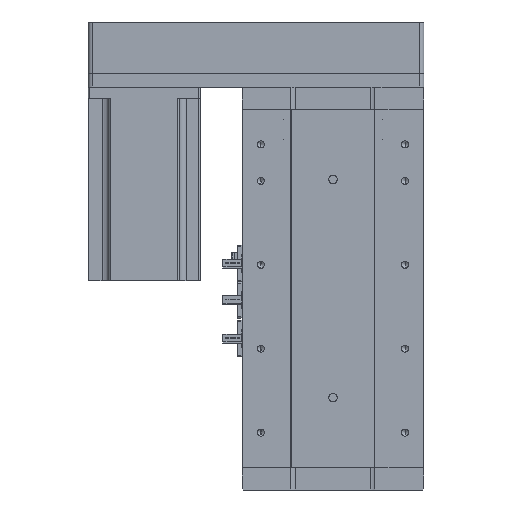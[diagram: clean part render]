
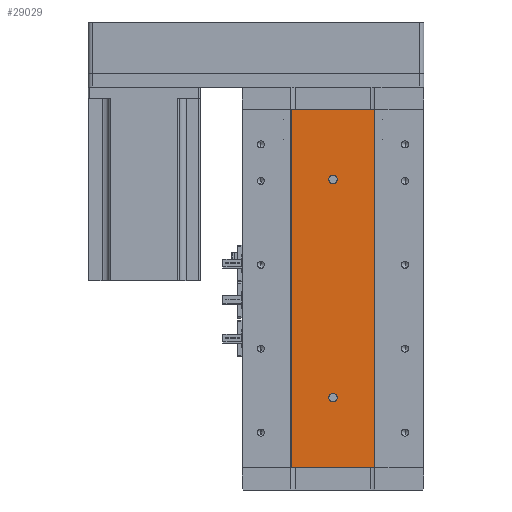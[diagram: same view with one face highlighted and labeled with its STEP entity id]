
A CAD part, left-side view. The second image highlights one B-rep face of the part: STEP entity #29029.
In plain terms, the highlighted planar face has unit normal (-1, 0, 0).
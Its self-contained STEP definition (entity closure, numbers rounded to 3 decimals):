
#848 = CIRCLE ( 'NONE', #25437, 3. ) ;
#1745 = CARTESIAN_POINT ( 'NONE',  ( -24.994, 0., 206. ) ) ;
#1935 = VERTEX_POINT ( 'NONE', #8209 ) ;
#2022 = DIRECTION ( 'NONE',  ( 1., 0., 0. ) ) ;
#2204 = EDGE_CURVE ( 'NONE', #17460, #1935, #13745, .T. ) ;
#2459 = CARTESIAN_POINT ( 'NONE',  ( -24.994, 29.785, 0. ) ) ;
#2634 = ORIENTED_EDGE ( 'NONE', *, *, #2204, .F. ) ;
#2795 = ORIENTED_EDGE ( 'NONE', *, *, #15281, .T. ) ;
#3025 = LINE ( 'NONE', #21633, #33633 ) ;
#4409 = FACE_BOUND ( 'NONE', #26926, .T. ) ;
#4567 = CARTESIAN_POINT ( 'NONE',  ( -24.994, 29.785, 256. ) ) ;
#4767 = DIRECTION ( 'NONE',  ( 0., 0., 1. ) ) ;
#4916 = CARTESIAN_POINT ( 'NONE',  ( -24.994, 29.785, 256. ) ) ;
#4980 = CARTESIAN_POINT ( 'NONE',  ( -24.994, -29.785, 0. ) ) ;
#5320 = EDGE_LOOP ( 'NONE', ( #19870, #2634 ) ) ;
#6443 = CARTESIAN_POINT ( 'NONE',  ( -24.994, 0., 206. ) ) ;
#7521 = DIRECTION ( 'NONE',  ( 0., 0., -1. ) ) ;
#7922 = EDGE_CURVE ( 'NONE', #9897, #31786, #24342, .T. ) ;
#8209 = CARTESIAN_POINT ( 'NONE',  ( -24.994, 0., 209. ) ) ;
#8591 = VECTOR ( 'NONE', #23490, 1000. ) ;
#8597 = CARTESIAN_POINT ( 'NONE',  ( -24.994, 0., 203. ) ) ;
#9798 = DIRECTION ( 'NONE',  ( 0., -1., 0. ) ) ;
#9897 = VERTEX_POINT ( 'NONE', #38454 ) ;
#10399 = FACE_BOUND ( 'NONE', #5320, .T. ) ;
#10830 = CARTESIAN_POINT ( 'NONE',  ( -24.994, 0., 50. ) ) ;
#10854 = CARTESIAN_POINT ( 'NONE',  ( -24.994, 0., 50. ) ) ;
#12351 = CARTESIAN_POINT ( 'NONE',  ( -24.994, -29.785, 256. ) ) ;
#12448 = VECTOR ( 'NONE', #7521, 1000. ) ;
#12561 = ORIENTED_EDGE ( 'NONE', *, *, #18824, .F. ) ;
#13745 = CIRCLE ( 'NONE', #17369, 3. ) ;
#13783 = VERTEX_POINT ( 'NONE', #35044 ) ;
#13809 = DIRECTION ( 'NONE',  ( 0., 0., 1. ) ) ;
#13832 = DIRECTION ( 'NONE',  ( 0., 0., 1. ) ) ;
#14918 = VERTEX_POINT ( 'NONE', #17553 ) ;
#15281 = EDGE_CURVE ( 'NONE', #28879, #9897, #38003, .T. ) ;
#15686 = AXIS2_PLACEMENT_3D ( 'NONE', #1745, #22510, #4767 ) ;
#17369 = AXIS2_PLACEMENT_3D ( 'NONE', #6443, #34045, #25483 ) ;
#17460 = VERTEX_POINT ( 'NONE', #8597 ) ;
#17553 = CARTESIAN_POINT ( 'NONE',  ( -24.994, -29.785, 256. ) ) ;
#18478 = AXIS2_PLACEMENT_3D ( 'NONE', #10830, #31572, #13809 ) ;
#18824 = EDGE_CURVE ( 'NONE', #24402, #13783, #23799, .T. ) ;
#19511 = LINE ( 'NONE', #12351, #20430 ) ;
#19820 = PLANE ( 'NONE',  #29490 ) ;
#19870 = ORIENTED_EDGE ( 'NONE', *, *, #23280, .F. ) ;
#20430 = VECTOR ( 'NONE', #21303, 1000. ) ;
#21303 = DIRECTION ( 'NONE',  ( 0., 0., -1. ) ) ;
#21633 = CARTESIAN_POINT ( 'NONE',  ( -24.994, 29.785, 256. ) ) ;
#21855 = ORIENTED_EDGE ( 'NONE', *, *, #26261, .F. ) ;
#22510 = DIRECTION ( 'NONE',  ( -1., 0., 0. ) ) ;
#22769 = DIRECTION ( 'NONE',  ( 0., 0., -1. ) ) ;
#23280 = EDGE_CURVE ( 'NONE', #1935, #17460, #33117, .T. ) ;
#23490 = DIRECTION ( 'NONE',  ( 0., -1., 0. ) ) ;
#23799 = CIRCLE ( 'NONE', #18478, 3. ) ;
#24342 = LINE ( 'NONE', #2459, #8591 ) ;
#24402 = VERTEX_POINT ( 'NONE', #25357 ) ;
#24578 = ORIENTED_EDGE ( 'NONE', *, *, #28780, .F. ) ;
#24969 = CARTESIAN_POINT ( 'NONE',  ( -24.994, 29.785, 256. ) ) ;
#25191 = ORIENTED_EDGE ( 'NONE', *, *, #7922, .T. ) ;
#25357 = CARTESIAN_POINT ( 'NONE',  ( -24.994, 0., 53. ) ) ;
#25437 = AXIS2_PLACEMENT_3D ( 'NONE', #10854, #31600, #13832 ) ;
#25483 = DIRECTION ( 'NONE',  ( 0., 0., 1. ) ) ;
#26261 = EDGE_CURVE ( 'NONE', #13783, #24402, #848, .T. ) ;
#26926 = EDGE_LOOP ( 'NONE', ( #12561, #21855 ) ) ;
#28780 = EDGE_CURVE ( 'NONE', #28879, #14918, #3025, .T. ) ;
#28871 = EDGE_LOOP ( 'NONE', ( #25191, #36754, #24578, #2795 ) ) ;
#28879 = VERTEX_POINT ( 'NONE', #24969 ) ;
#29029 = ADVANCED_FACE ( 'NONE', ( #10399, #4409, #34088 ), #19820, .F. ) ;
#29490 = AXIS2_PLACEMENT_3D ( 'NONE', #4916, #2022, #22769 ) ;
#31478 = EDGE_CURVE ( 'NONE', #14918, #31786, #19511, .T. ) ;
#31572 = DIRECTION ( 'NONE',  ( -1., 0., 0. ) ) ;
#31600 = DIRECTION ( 'NONE',  ( -1., 0., 0. ) ) ;
#31786 = VERTEX_POINT ( 'NONE', #4980 ) ;
#33117 = CIRCLE ( 'NONE', #15686, 3. ) ;
#33633 = VECTOR ( 'NONE', #9798, 1000. ) ;
#34045 = DIRECTION ( 'NONE',  ( -1., 0., 0. ) ) ;
#34088 = FACE_OUTER_BOUND ( 'NONE', #28871, .T. ) ;
#35044 = CARTESIAN_POINT ( 'NONE',  ( -24.994, 0., 47. ) ) ;
#36754 = ORIENTED_EDGE ( 'NONE', *, *, #31478, .F. ) ;
#38003 = LINE ( 'NONE', #4567, #12448 ) ;
#38454 = CARTESIAN_POINT ( 'NONE',  ( -24.994, 29.785, 0. ) ) ;
